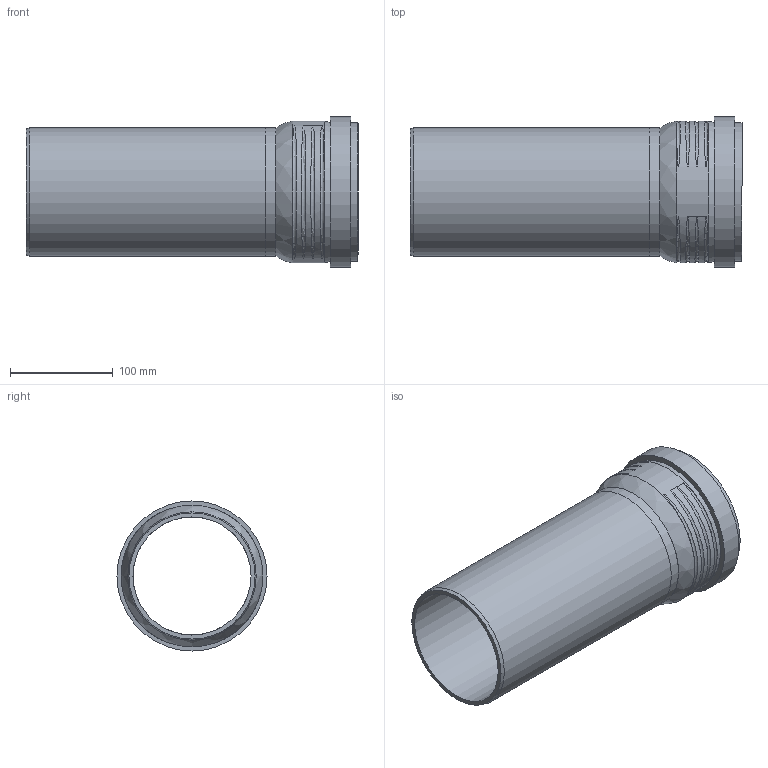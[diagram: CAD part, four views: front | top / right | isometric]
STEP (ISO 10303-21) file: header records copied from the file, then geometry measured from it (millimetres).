
FILE_DESCRIPTION(/* description */ (''),/* implementation_level */ '2;1');
FILE_NAME(/* name */ 'H:\Geberit-Teile\Export\PP_Rohr\stp\393601.stp',/* time_stamp */ '2017-02-13T16:09:15+01:00',/* author */ ('seihe2'),/* organization */ (''),/* preprocessor_version */ 'ST-DEVELOPER v15.2',/* originating_system */ 'Autodesk Inventor 2014',/* authorisation */ '');
FILE_SCHEMA (('AUTOMOTIVE_DESIGN { 1 0 10303 214 3 1 1 }'));
Length unit declared in the file: millimetre
Products named in the file (1): 393601
Bounding box: 323.9 x 146.35 x 146.35 mm (x, y, z)
Volume: 641363.2 mm3; surface area: 277995.8 mm2
Topology: 2 solids, 2 shells, 38 faces, 81 edges, 56 vertices
Faces by surface type: torus 17, cylinder 10, plane 8, cone 2, bspline 1
Full cylindrical faces by diameter (mm): 115.2 x2, 125.2 x2, 126.2 x1, 129.2 x1, 135.2 x1, 137.75 x1, 138.2 x1, 146.35 x1
Entity records: 2345 total; most frequent: CARTESIAN_POINT 1566, DIRECTION 130, ORIENTED_EDGE 124, EDGE_LOOP 69, AXIS2_PLACEMENT_3D 65, EDGE_CURVE 62, VERTEX_POINT 55, STYLED_ITEM 40
